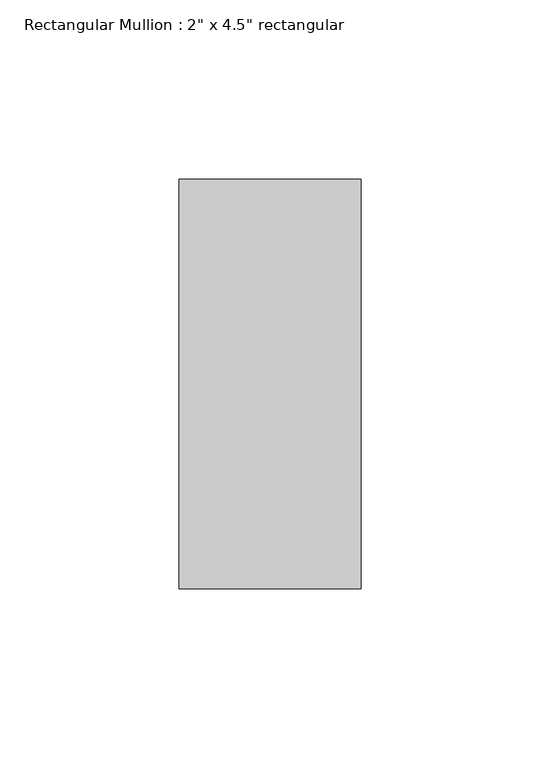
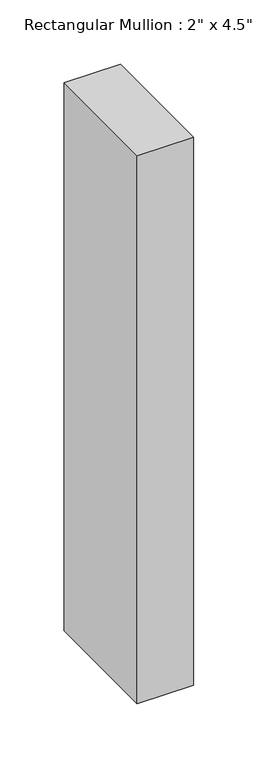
"""IFC4 building model written with IfcOpenShell, lengths in millimetres: member geometry."""

import ifcopenshell
import ifcopenshell.guid

model = None  # the IFC model being written
_history = None  # IfcOwnerHistory: only IFC2X3 demands one
_inside = {}  # id of a spatial element -> (the spatial element, [elements in it])
_under = {}  # id of a project, library or spatial element -> (it, [spatial elements below it])
_declared = {}  # id of a project -> (the project, [libraries it declares])
_typed = {}  # id of a type object -> (the type object, [elements of that type])
_made_of = {}  # id of a material, layer set ... -> (it, [elements and type objects made of it])


def new_model(schema):
    """Start an empty IFC model of exactly this schema.

    Asked for "IFC4X3", IfcOpenShell would pick the latest addendum, in which some entities
    have other attributes; the version numbers below select the first issue.
    IFC2X3 requires an IfcOwnerHistory on every rooted entity: one is made here for all.
    """
    global model, _history
    if schema == "IFC4X3":
        model = ifcopenshell.file(schema_version=(4, 3, 0, 0))
    else:
        model = ifcopenshell.file(schema=schema)
    _inside.clear()
    _under.clear()
    _declared.clear()
    _typed.clear()
    _made_of.clear()
    _history = None
    if model.schema == "IFC2X3":
        org = make("IfcOrganization", Name="unknown")
        user = make(
            "IfcPersonAndOrganization",
            ThePerson=make("IfcPerson", FamilyName="unknown"),
            TheOrganization=org,
        )
        app = make(
            "IfcApplication",
            ApplicationDeveloper=org,
            Version="unknown",
            ApplicationFullName="unknown",
            ApplicationIdentifier="unknown",
        )
        _history = make(
            "IfcOwnerHistory",
            OwningUser=user,
            OwningApplication=app,
            ChangeAction="ADDED",
            CreationDate=0,
        )
    return model


def make(cls, **values):
    """One entity of the class cls with the attributes given. An attribute that is None is left unset."""
    return model.create_entity(
        cls, **{name: value for name, value in values.items() if value is not None}
    )


def rooted(cls, **values):
    """An entity with a GlobalId (a new one), such as an element, a storey or a relation."""
    return make(cls, GlobalId=ifcopenshell.guid.new(), OwnerHistory=_history, **values)


def si_unit(unit_type, name, prefix=None):
    """IfcSIUnit, for example si_unit("LENGTHUNIT", "METRE", prefix="MILLI")."""
    return make("IfcSIUnit", UnitType=unit_type, Prefix=prefix, Name=name)


def assignment(units):
    """IfcUnitAssignment: the units of a project."""
    return None if units is None else make("IfcUnitAssignment", Units=units)


def point(xyz):
    """IfcCartesianPoint."""
    return None if xyz is None else make("IfcCartesianPoint", Coordinates=xyz)


def direction(xyz):
    """IfcDirection."""
    return None if xyz is None else make("IfcDirection", DirectionRatios=xyz)


def frame(location, z_axis=None, x_axis=None):
    """IfcAxis2Placement3D, a coordinate frame: its origin and axes. An axis left out is left unset."""
    return make(
        "IfcAxis2Placement3D",
        Location=point(location),
        Axis=direction(z_axis),
        RefDirection=direction(x_axis),
    )


def origin():
    """The frame at (0, 0, 0) with its axes left unset."""
    return frame((0.0, 0.0, 0.0))


def place(relative_to, where):
    """IfcLocalPlacement: puts the frame where relative to a parent placement (None: the world)."""
    return make(
        "IfcLocalPlacement", PlacementRelTo=relative_to, RelativePlacement=where
    )


def context(
    kind, dimensions, precision=None, world=None, true_north=None, identifier=None
):
    """IfcGeometricRepresentationContext, for example the 3D "Model" context."""
    return make(
        "IfcGeometricRepresentationContext",
        ContextIdentifier=identifier,
        ContextType=kind,
        CoordinateSpaceDimension=dimensions,
        Precision=precision,
        WorldCoordinateSystem=world,
        TrueNorth=true_north,
    )


def project(units=None, contexts=None):
    """IfcProject with its units and contexts."""
    return rooted(
        "IfcProject",
        Name="project",
        RepresentationContexts=contexts,
        UnitsInContext=assignment(units),
    )


def spatial(cls, under=None, at=None, **own):
    """A site, building, storey or space (cls), placed at a placement, below another one or the project."""
    s = rooted(cls, ObjectPlacement=at, **own)
    if under is not None:
        _under.setdefault(under.id(), (under, []))[1].append(s)
    return s


def polyline(points):
    """IfcPolyline through the points."""
    return make("IfcPolyline", Points=[point(p) for p in points])


def outline(outer, holes=None, kind="AREA"):
    """IfcArbitraryClosedProfileDef: a profile drawn as a closed curve; with holes, ...WithVoids."""
    if holes is None:
        return make("IfcArbitraryClosedProfileDef", ProfileType=kind, OuterCurve=outer)
    return make(
        "IfcArbitraryProfileDefWithVoids",
        ProfileType=kind,
        OuterCurve=outer,
        InnerCurves=holes,
    )


def extrude(swept, where, along, depth):
    """IfcExtrudedAreaSolid: the profile swept, set in the frame where, extruded along a direction by depth."""
    return make(
        "IfcExtrudedAreaSolid",
        SweptArea=swept,
        Position=where,
        ExtrudedDirection=direction(along),
        Depth=depth,
    )


def shape(context_of_items, identifier, shape_type, items):
    """IfcShapeRepresentation: the items that make up one representation, for example the "Body"."""
    return make(
        "IfcShapeRepresentation",
        ContextOfItems=context_of_items,
        RepresentationIdentifier=identifier,
        RepresentationType=shape_type,
        Items=items,
    )


def source(mapping_origin, context_of_items, identifier, shape_type, items):
    """IfcRepresentationMap: a shape defined once, which mapped items show again and again."""
    return make(
        "IfcRepresentationMap",
        MappingOrigin=mapping_origin,
        MappedRepresentation=shape(context_of_items, identifier, shape_type, items),
    )


def transform(
    local_origin,
    x_axis=None,
    y_axis=None,
    z_axis=None,
    scale=None,
    scale2=None,
    scale3=None,
    uniform=True,
):
    """IfcCartesianTransformationOperator3D, or its non-uniform kind. x_axis, y_axis, z_axis: its Axis1, 2, 3."""
    if uniform:
        return make(
            "IfcCartesianTransformationOperator3D",
            Axis1=direction(x_axis),
            Axis2=direction(y_axis),
            LocalOrigin=point(local_origin),
            Scale=scale,
            Axis3=direction(z_axis),
        )
    return make(
        "IfcCartesianTransformationOperator3DnonUniform",
        Axis1=direction(x_axis),
        Axis2=direction(y_axis),
        LocalOrigin=point(local_origin),
        Scale=scale,
        Axis3=direction(z_axis),
        Scale2=scale2,
        Scale3=scale3,
    )


def mapped(mapping_source, mapping_target):
    """IfcMappedItem: shows the shape of a source again, moved by a transform."""
    return make(
        "IfcMappedItem", MappingSource=mapping_source, MappingTarget=mapping_target
    )


def made_of(thing, what):
    """Note that an element or type object is made of a material, layer set ...; save() writes the relation."""
    if what is not None:
        _made_of.setdefault(what.id(), (what, []))[1].append(thing)
    return thing


def element(
    cls,
    number,
    at=None,
    inside=None,
    cuts=None,
    type_object=None,
    material=None,
    context=None,
    identifier="Body",
    shape_type=None,
    held_by="IfcProductDefinitionShape",
    body=None,
    shapes=None,
    **own,
):
    """One element of the class cls, such as IfcWall. Its Tag is "e" and its number.

    at: its placement. inside: the storey or other place that contains it. cuts: it is an
    opening in that element (IfcRelVoidsElement). A single representation is given by context,
    identifier, shape_type and body (its items); several are given by shapes. held_by: the class
    of the entity that holds the representations. save() writes the other relations.
    """
    e = rooted(cls, Tag="e%d" % number, ObjectPlacement=at, **own)
    if body is not None:
        shapes = [shape(context, identifier, shape_type, body)]
    if shapes is not None:
        e.Representation = make(held_by, Representations=shapes)
    if inside is not None:
        _inside.setdefault(inside.id(), (inside, []))[1].append(e)
    if cuts is not None:
        rooted(
            "IfcRelVoidsElement", RelatingBuildingElement=cuts, RelatedOpeningElement=e
        )
    if type_object is not None:
        _typed.setdefault(type_object.id(), (type_object, []))[1].append(e)
    return made_of(e, material)


def aggregate(whole, parts):
    """IfcRelAggregates: a whole, such as a stair, and the parts it consists of."""
    return rooted("IfcRelAggregates", RelatingObject=whole, RelatedObjects=parts)


def save(model, path):
    """Write the relations noted so far, then the file.

    IfcRelAggregates (storeys below a building ...), IfcRelContainedInSpatialStructure (elements
    in a storey), IfcRelDefinesByType, IfcRelAssociatesMaterial and IfcRelDeclares: one each for
    every whole, place, type object, material and project.
    """
    for whole, parts in _under.values():
        aggregate(whole, parts)
    for where, things in _inside.values():
        rooted(
            "IfcRelContainedInSpatialStructure",
            RelatedElements=things,
            RelatingStructure=where,
        )
    for kind, things in _typed.values():
        rooted("IfcRelDefinesByType", RelatedObjects=things, RelatingType=kind)
    for what, things in _made_of.values():
        rooted("IfcRelAssociatesMaterial", RelatedObjects=things, RelatingMaterial=what)
    for by, libraries in _declared.values():
        rooted("IfcRelDeclares", RelatingContext=by, RelatedDefinitions=libraries)
    model.write(path)


def member_79e7b9d8(model_context):
    return source(origin(), model_context, "Body", "SweptSolid", [
        extrude(outline(polyline([(0.0, 57.15), (0.0, -57.15), (-50.8, -57.15), (-50.8, 57.15), (0.0, 57.15)])), frame((0.0, 0.0, -521.5351948), z_axis=(0.0, 0.0, 1.0), x_axis=(1.0, 0.0, 0.0)), (0.0, 0.0, 1.0), 521.5351948),
    ])


if __name__ == "__main__":
    model = new_model("IFC4")
    model_context = context("Model", 3, world=origin())
    ifc_project = project(units=[si_unit("LENGTHUNIT", "METRE", prefix="MILLI")], contexts=[model_context])
    site = spatial("IfcSite", under=ifc_project)
    building = spatial("IfcBuilding", under=site)
    placement = place(None, origin())
    member_shape = member_79e7b9d8(model_context)
    element("IfcMember", 1, ObjectType="Rectangular Mullion : 2\" x 4.5\" rectangular", at=placement, inside=building, context=model_context, shape_type="MappedRepresentation", body=[
        mapped(member_shape, transform((0.0, 0.0, 0.0), x_axis=(1.0, 0.0, 0.0), y_axis=(0.0, 1.0, 0.0), z_axis=(0.0, 0.0, 1.0))),
    ])
    save(model, "model.ifc")
